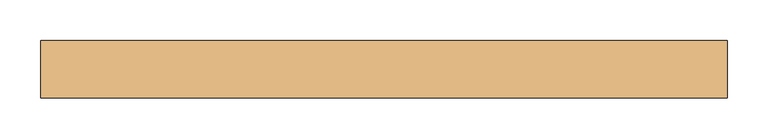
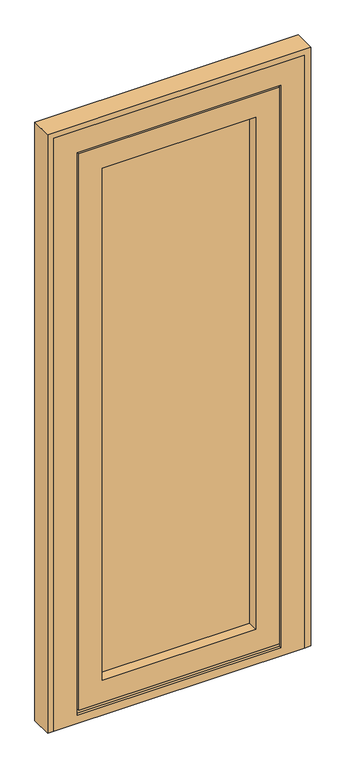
"""IFC4 building model written with IfcOpenShell, lengths in millimetres: door geometry, Дверь.Alumark_однопольная_S70 : 960х2080 Правая Открывание наружу (СП 24мм Обычный)."""

from ifc_helpers import new_model, si_unit, frame, origin, place, context, project, spatial, polyline, outline, extrude, faceted_brep, source, transform, mapped, element, save


def door_bc706c30(model_context):
    return source(origin(), model_context, "Body", "SolidModel", [
        extrude(outline(polyline([(-138.0, 65.0), (-138.0, 91.0), (388.0, 91.0), (388.0, 65.0), (-138.0, 65.0)])), frame((0.0, 0.0, 99.0), z_axis=(0.0, 0.0, 1.0), x_axis=(1.0, 0.0, 0.0)), (0.0, 0.0, 1.0), 1764.0),
        faceted_brep([(470.0, 91.0, 17.0), (460.0, 91.0, 17.0), (460.0, 39.0, 17.0), (450.0, 39.0, 17.0), (450.0, 91.0, 17.0), (-200.0, 91.0, 17.0), (-200.0, 39.0, 17.0), (-210.0, 39.0, 17.0), (-210.0, 91.0, 17.0), (-220.0, 91.0, 17.0), (-220.0, 100.0, 17.0), (470.0, 100.0, 17.0), (470.0, 100.0, 1945.0), (470.0, 91.0, 1945.0), (-220.0, 100.0, 1945.0), (370.0, 100.0, 1845.0), (-120.0, 100.0, 1845.0), (-120.0, 100.0, 117.0), (370.0, 100.0, 117.0), (370.0, 91.0, 117.0), (370.0, 91.0, 1845.0), (-138.0, 91.0, 1863.0), (-138.0, 91.0, 99.0), (388.0, 91.0, 99.0), (388.0, 91.0, 1863.0), (-120.0, 91.0, 117.0), (-120.0, 91.0, 1845.0), (450.0, 91.0, 27.0), (-200.0, 91.0, 27.0), (388.0, 65.0, 99.0), (388.0, 65.0, 1863.0), (-138.0, 65.0, 99.0), (-138.0, 65.0, 1863.0), (370.0, 65.0, 1845.0), (-120.0, 65.0, 1845.0), (-120.0, 65.0, 117.0), (370.0, 65.0, 117.0), (370.0, 30.0, 117.0), (370.0, 30.0, 1845.0), (-195.0, 30.0, 1920.0), (-195.0, 30.0, 42.0), (445.0, 30.0, 42.0), (445.0, 30.0, 1920.0), (-120.0, 30.0, 117.0), (-120.0, 30.0, 1845.0), (445.0, 39.0, 42.0), (445.0, 39.0, 1920.0), (-200.0, 39.0, 27.0), (450.0, 39.0, 27.0), (460.0, 39.0, 1935.0), (-210.0, 39.0, 1935.0), (-195.0, 39.0, 42.0), (-195.0, 39.0, 1920.0), (460.0, 91.0, 1935.0), (-220.0, 91.0, 1945.0), (-210.0, 91.0, 1935.0)], [[[0, 1, 2, 3, 4, 5, 6, 7, 8, 9, 10, 11]], [[11, 12, 13, 0]], [[10, 14, 12, 11], [15, 16, 17, 18]], [[15, 18, 19, 20]], [[21, 22, 23, 24], [20, 19, 25, 26]], [[27, 28, 5, 4]], [[23, 29, 30, 24]], [[30, 29, 31, 32], [33, 34, 35, 36]], [[33, 36, 37, 38]], [[39, 40, 41, 42], [38, 37, 43, 44]], [[41, 45, 46, 42]], [[47, 48, 3, 2, 49, 50, 7, 6], [46, 45, 51, 52]], [[1, 53, 49, 2]], [[0, 13, 54, 9, 8, 55, 53, 1]], [[12, 14, 54, 13]], [[15, 20, 26, 16]], [[24, 30, 32, 21]], [[33, 38, 44, 34]], [[42, 46, 52, 39]], [[49, 53, 55, 50]], [[10, 9, 54, 14]], [[26, 25, 17, 16]], [[31, 22, 21, 32]], [[44, 43, 35, 34]], [[51, 40, 39, 52]], [[50, 55, 8, 7]], [[19, 18, 17, 25]], [[22, 31, 29, 23]], [[37, 36, 35, 43]], [[47, 6, 5, 28]], [[27, 4, 3, 48]], [[27, 48, 47, 28]], [[45, 41, 40, 51]]]),
        faceted_brep([(-275.0, 100.0, 0.0), (525.0, 100.0, 0.0), (525.0, 30.0, 0.0), (-275.0, 30.0, 0.0), (-275.0, 100.0, 2000.0), (525.0, 100.0, 2000.0), (475.0, 100.0, 1950.0), (-225.0, 100.0, 1950.0), (-225.0, 100.0, 9.0), (475.0, 100.0, 9.0), (475.0, 91.0, 9.0), (475.0, 91.0, 1950.0), (-225.0, 91.0, 9.0), (-225.0, 91.0, 1950.0), (460.0, 91.0, 1935.0), (-210.0, 91.0, 1935.0), (-210.0, 91.0, 27.0), (460.0, 91.0, 27.0), (460.0, 39.0, 27.0), (460.0, 39.0, 1935.0), (450.0, 39.0, 27.0), (450.0, 39.0, 1925.0), (-200.0, 39.0, 1925.0), (-200.0, 39.0, 27.0), (-210.0, 39.0, 27.0), (-210.0, 39.0, 1935.0), (450.0, 30.0, 27.0), (450.0, 30.0, 1925.0), (525.0, 30.0, 2000.0), (-275.0, 30.0, 2000.0), (-200.0, 30.0, 1925.0), (-200.0, 30.0, 27.0)], [[[0, 1, 2, 3]], [[0, 4, 5, 1], [6, 7, 8, 9]], [[6, 9, 10, 11]], [[11, 10, 12, 13], [14, 15, 16, 17]], [[14, 17, 18, 19]], [[19, 18, 20, 21, 22, 23, 24, 25]], [[21, 20, 26, 27]], [[2, 28, 29, 3], [30, 27, 26, 31]], [[5, 28, 2, 1]], [[6, 11, 13, 7]], [[14, 19, 25, 15]], [[21, 27, 30, 22]], [[4, 29, 28, 5]], [[12, 8, 7, 13]], [[25, 24, 16, 15]], [[30, 31, 23, 22]], [[0, 3, 29, 4]], [[8, 12, 10, 9]], [[26, 20, 18, 17, 16, 24, 23, 31]]]),
        extrude(outline(polyline([(2020.0, -295.0), (0.0, -295.0), (0.0, -275.0), (2000.0, -275.0), (2000.0, 525.0), (0.0, 525.0), (0.0, 545.0), (2020.0, 545.0), (2020.0, -295.0)])), frame((0.0, 30.0, 0.0), z_axis=(0.0, 1.0, 0.0), x_axis=(0.0, 0.0, 1.0)), (0.0, 0.0, 1.0), 70.0),
    ])


if __name__ == "__main__":
    model = new_model("IFC4")
    model_context = context("Model", 3, world=origin())
    ifc_project = project(units=[si_unit("LENGTHUNIT", "METRE", prefix="MILLI")], contexts=[model_context])
    site = spatial("IfcSite", under=ifc_project)
    building = spatial("IfcBuilding", under=site)
    placement = place(None, origin())
    door_shape = door_bc706c30(model_context)
    element("IfcDoor", 1, ObjectType="Дверь.Alumark_однопольная_S70 : 960х2080 Правая Открывание наружу (СП 24мм Обычный)", at=placement, inside=building, context=model_context, shape_type="MappedRepresentation", body=[
        mapped(door_shape, transform((0.0, 0.0, 0.0), x_axis=(1.0, 0.0, 0.0), y_axis=(0.0, 1.0, 0.0), z_axis=(0.0, 0.0, 1.0))),
    ])
    save(model, "model.ifc")
